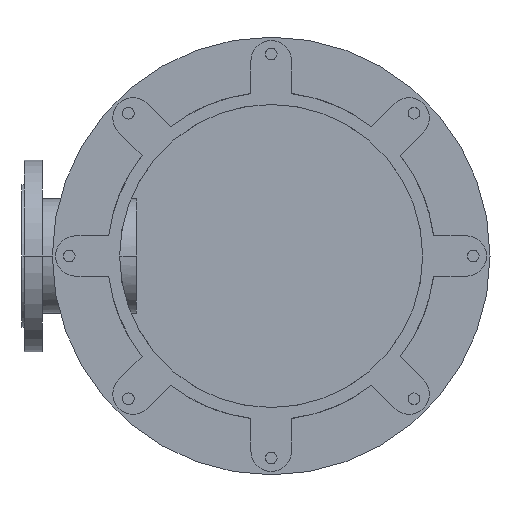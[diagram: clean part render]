
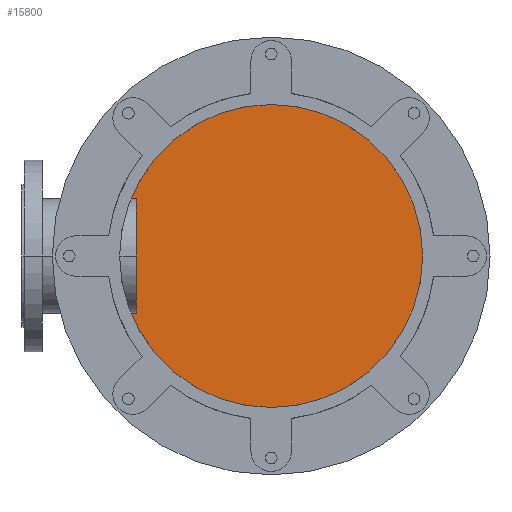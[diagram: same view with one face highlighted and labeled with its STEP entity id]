
A CAD part, front view. The second image highlights one B-rep face of the part: STEP entity #15800.
In plain terms, the highlighted planar face has unit normal (0, -1, 0).
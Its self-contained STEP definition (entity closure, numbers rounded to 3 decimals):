
#4406=CARTESIAN_POINT('',(0.,1004.,0.));
#4407=DIRECTION('',(0.,-1.,0.));
#4408=DIRECTION('',(0.,0.,1.));
#4409=AXIS2_PLACEMENT_3D('',#4406,#4407,#4408);
#4575=CARTESIAN_POINT('',(0.,1004.,0.));
#4576=DIRECTION('',(0.,-1.,0.));
#4577=DIRECTION('',(0.,0.,-1.));
#4578=AXIS2_PLACEMENT_3D('',#4575,#4576,#4577);
#9726=CARTESIAN_POINT('',(0.,1004.,240.));
#9727=CARTESIAN_POINT('',(0.,1004.,-240.));
#9728=VERTEX_POINT('',#9726);
#9729=VERTEX_POINT('',#9727);
#15790=CARTESIAN_POINT('',(0.,1004.,0.));
#15791=DIRECTION('',(0.,1.,0.));
#15792=DIRECTION('',(0.,0.,-1.));
#15793=AXIS2_PLACEMENT_3D('',#15790,#15791,#15792);
#15794=PLANE('',#15793);
#15795=ORIENTED_EDGE('',*,*,#15768,.F.);
#15797=ORIENTED_EDGE('',*,*,#15796,.F.);
#15798=EDGE_LOOP('',(#15795,#15797));
#15799=FACE_OUTER_BOUND('',#15798,.F.);
#15800=ADVANCED_FACE('',(#15799),#15794,.F.);
#4410=CIRCLE('',#4409,240.);
#4579=CIRCLE('',#4578,240.);
#15768=EDGE_CURVE('',#9728,#9729,#4410,.T.);
#15796=EDGE_CURVE('',#9729,#9728,#4579,.T.);
